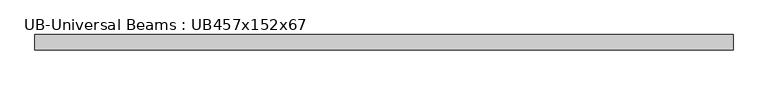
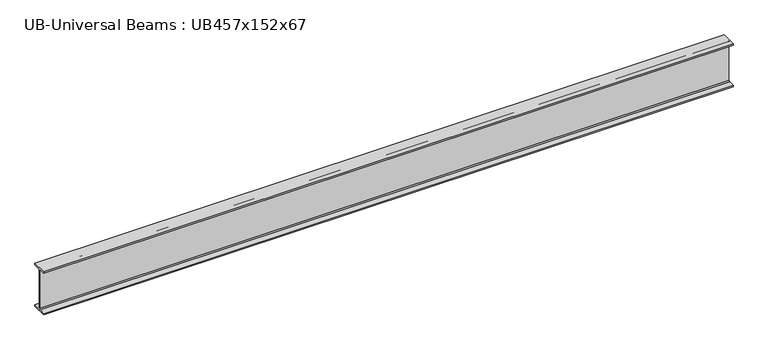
"""IFC4 building model written with IfcOpenShell, lengths in millimetres: beam geometry, UB-Universal Beams : UB457x152x67."""

from ifc_helpers import new_model, si_unit, point, frame, frame_2d, origin, place, context, project, spatial, polyline, circle_curve, trimmed, segment, composite_curve, outline, extrude, source, transform, mapped, element, save


def ub_universal_beams_ub457x152x67_cb9275ae(model_context):
    return source(origin(), model_context, "Body", "SweptSolid", [
        extrude(outline(composite_curve([segment(polyline([(76.9, -214.0), (76.9, -229.0), (-76.9, -229.0), (-76.9, -214.0), (-14.7, -214.0)]), True, "CONTINUOUS"), segment(trimmed(circle_curve(frame_2d((-14.7, -203.8)), 10.2), [point((-14.7, -214.0))], [point((-4.5, -203.8))], True, "CARTESIAN"), True, "CONTINUOUS"), segment(polyline([(-4.5, -203.8), (-4.5, 203.8)]), True, "CONTINUOUS"), segment(trimmed(circle_curve(frame_2d((-14.7, 203.8)), 10.2), [point((-4.5, 203.8))], [point((-14.7, 214.0))], True, "CARTESIAN"), True, "CONTINUOUS"), segment(polyline([(-14.7, 214.0), (-76.9, 214.0), (-76.9, 229.0), (76.9, 229.0), (76.9, 214.0), (14.7, 214.0)]), True, "CONTINUOUS"), segment(trimmed(circle_curve(frame_2d((14.7, 203.8)), 10.2), [point((14.7, 214.0))], [point((4.5, 203.8))], True, "CARTESIAN"), True, "CONTINUOUS"), segment(polyline([(4.5, 203.8), (4.5, -203.8)]), True, "CONTINUOUS"), segment(trimmed(circle_curve(frame_2d((14.7, -203.8)), 10.2), [point((4.5, -203.8))], [point((14.7, -214.0))], True, "CARTESIAN"), True, "CONTINUOUS"), segment(polyline([(14.7, -214.0), (76.9, -214.0)]), True, "CONTINUOUS")], self_intersect=False)), frame((-3446.1, 0.0, 0.0), z_axis=(1.0, 0.0, 0.0), x_axis=(0.0, 1.0, 0.0)), (0.0, 0.0, 1.0), 6945.9),
    ])


if __name__ == "__main__":
    model = new_model("IFC4")
    model_context = context("Model", 3, world=origin())
    ifc_project = project(units=[si_unit("LENGTHUNIT", "METRE", prefix="MILLI")], contexts=[model_context])
    site = spatial("IfcSite", under=ifc_project)
    building = spatial("IfcBuilding", under=site)
    placement = place(None, origin())
    ub_universal_beams_ub457x152x67_shape = ub_universal_beams_ub457x152x67_cb9275ae(model_context)
    element("IfcBeam", 1, ObjectType="UB-Universal Beams : UB457x152x67", at=placement, inside=building, context=model_context, shape_type="MappedRepresentation", body=[
        mapped(ub_universal_beams_ub457x152x67_shape, transform((0.0, 0.0, 0.0), x_axis=(1.0, 0.0, 0.0), y_axis=(0.0, 1.0, 0.0), z_axis=(0.0, 0.0, 1.0))),
    ])
    save(model, "model.ifc")
